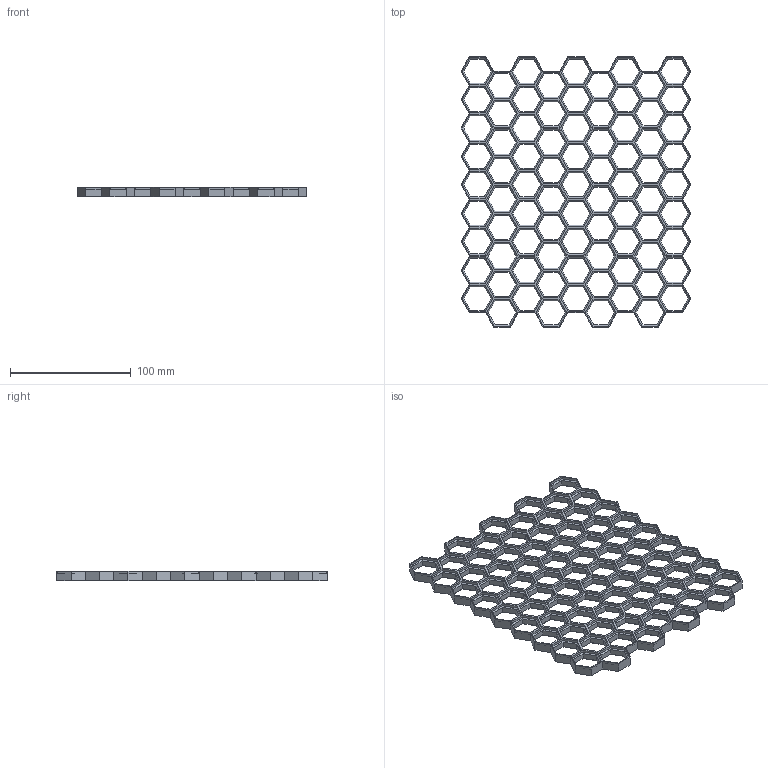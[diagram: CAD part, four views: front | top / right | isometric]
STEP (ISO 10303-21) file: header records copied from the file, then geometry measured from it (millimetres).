
FILE_DESCRIPTION(/* description */ (''),/* implementation_level */ '2;1');
FILE_NAME(/* name */ 'middle.mitte.step',/* time_stamp */ '2023-07-05T03:53:38+02:00',/* author */ (''),/* organization */ (''),/* preprocessor_version */ 'ST-DEVELOPER v19.2',/* originating_system */ 'Autodesk Translation Framework v12.6.0.85',/* authorisation */ '');
FILE_SCHEMA (('AUTOMOTIVE_DESIGN { 1 0 10303 214 3 1 1 }'));
Length unit declared in the file: millimetre
Products named in the file (1): wall-honeycomb sortierseytem
Bounding box: 190.76 x 224.2 x 8 mm (x, y, z)
Volume: 73120.5 mm3; surface area: 71222.3 mm2
Topology: 1 solids, 1 shells, 2016 faces, 4584 edges, 2570 vertices
Faces by surface type: plane 2016
Entity records: 53728 total; most frequent: CARTESIAN_POINT 9171, ORIENTED_EDGE 9168, DIRECTION 8618, LINE 4584, VECTOR 4584, EDGE_CURVE 4584, VERTEX_POINT 2570, EDGE_LOOP 2178
